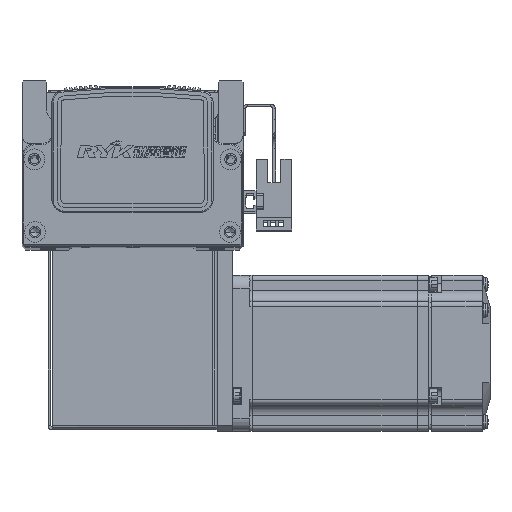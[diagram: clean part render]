
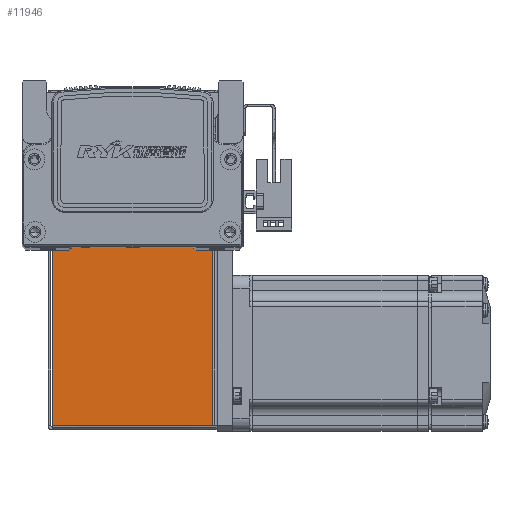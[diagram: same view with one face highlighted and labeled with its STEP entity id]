
A CAD part, top view. The second image highlights one B-rep face of the part: STEP entity #11946.
In plain terms, the highlighted planar face has unit normal (0, 0, 1).
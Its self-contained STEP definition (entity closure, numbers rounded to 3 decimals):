
#4257 = CARTESIAN_POINT ( 'NONE',  ( 0., 0., 35. ) ) ;
#4262 = PLANE ( 'NONE',  #15922 ) ;
#4263 = DIRECTION ( 'NONE',  ( -1., 0., 0. ) ) ;
#4266 = DIRECTION ( 'NONE',  ( 0., 0., -1. ) ) ;
#11946 = ADVANCED_FACE ( 'NONE', ( #16107 ), #4262, .F. ) ;
#15922 = AXIS2_PLACEMENT_3D ( 'NONE', #4257, #4266, #4263 ) ;
#16107 = FACE_OUTER_BOUND ( 'NONE', #56102, .T. ) ;
#25259 = LINE ( 'NONE', #64223, #25263 ) ;
#25263 = VECTOR ( 'NONE', #64215, 1000. ) ;
#25307 = VECTOR ( 'NONE', #64275, 1000. ) ;
#25349 = LINE ( 'NONE', #64314, #25307 ) ;
#25453 = LINE ( 'NONE', #64437, #25492 ) ;
#25492 = VECTOR ( 'NONE', #64438, 1000. ) ;
#25500 = LINE ( 'NONE', #64495, #25537 ) ;
#25537 = VECTOR ( 'NONE', #64496, 1000. ) ;
#50984 = VERTEX_POINT ( 'NONE', #57465 ) ;
#51007 = VERTEX_POINT ( 'NONE', #57434 ) ;
#53465 = ORIENTED_EDGE ( 'NONE', *, *, #74537, .T. ) ;
#53474 = ORIENTED_EDGE ( 'NONE', *, *, #74456, .F. ) ;
#53479 = ORIENTED_EDGE ( 'NONE', *, *, #74571, .F. ) ;
#53486 = ORIENTED_EDGE ( 'NONE', *, *, #74485, .T. ) ;
#54553 = VERTEX_POINT ( 'NONE', #58330 ) ;
#54591 = VERTEX_POINT ( 'NONE', #58441 ) ;
#56102 = EDGE_LOOP ( 'NONE', ( #53486, #53465, #53474, #53479 ) ) ;
#57434 = CARTESIAN_POINT ( 'NONE',  ( -30.793, 0.737, 35. ) ) ;
#57465 = CARTESIAN_POINT ( 'NONE',  ( -30.793, 72.5, 35. ) ) ;
#58330 = CARTESIAN_POINT ( 'NONE',  ( 30.763, 0.737, 35. ) ) ;
#58441 = CARTESIAN_POINT ( 'NONE',  ( 30.763, 72.5, 35. ) ) ;
#64215 = DIRECTION ( 'NONE',  ( 0., 1., 0. ) ) ;
#64223 = CARTESIAN_POINT ( 'NONE',  ( -30.793, 0., 35. ) ) ;
#64275 = DIRECTION ( 'NONE',  ( 0., 1., 0. ) ) ;
#64314 = CARTESIAN_POINT ( 'NONE',  ( 30.763, 0.737, 35. ) ) ;
#64437 = CARTESIAN_POINT ( 'NONE',  ( 0., 72.5, 35. ) ) ;
#64438 = DIRECTION ( 'NONE',  ( -1., 0., 0. ) ) ;
#64495 = CARTESIAN_POINT ( 'NONE',  ( -32.5, 0.737, 35. ) ) ;
#64496 = DIRECTION ( 'NONE',  ( -1., 0., 0. ) ) ;
#74456 = EDGE_CURVE ( 'NONE', #51007, #50984, #25259, .T. ) ;
#74485 = EDGE_CURVE ( 'NONE', #54553, #54591, #25349, .T. ) ;
#74537 = EDGE_CURVE ( 'NONE', #54591, #50984, #25453, .T. ) ;
#74571 = EDGE_CURVE ( 'NONE', #54553, #51007, #25500, .T. ) ;
